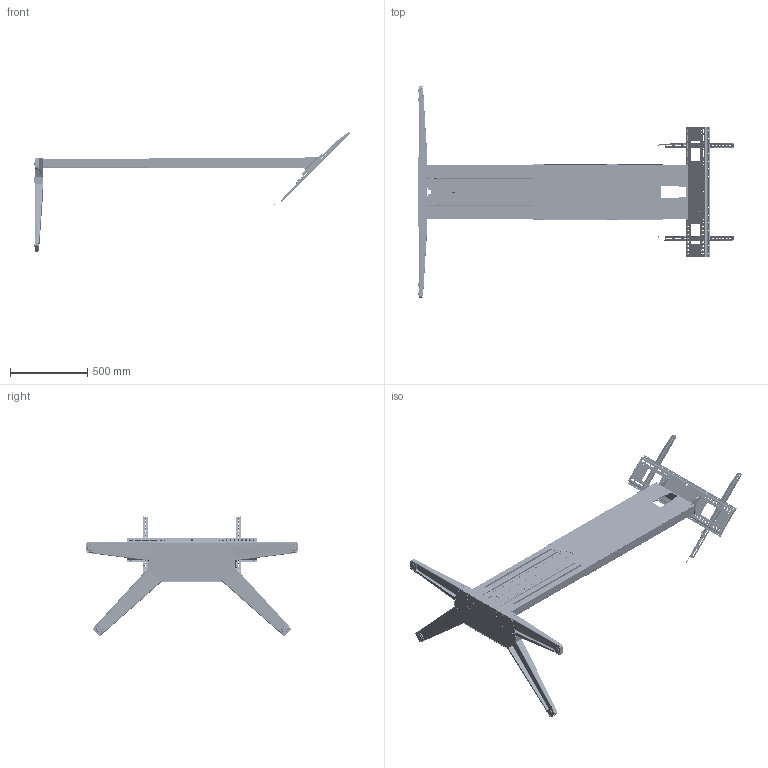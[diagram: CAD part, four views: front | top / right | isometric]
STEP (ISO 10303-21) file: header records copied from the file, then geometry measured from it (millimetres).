
FILE_DESCRIPTION((''),'2;1');
FILE_NAME('F51_FREESTANDING_MAX_ASM_ASM_AS_ASM','2022-02-11T14:44:40',('103247'),('捷昌驱动'),'CREO PARAMETRIC BY PTC INC, 2018100','CREO PARAMETRIC BY PTC INC, 2018100','');
FILE_SCHEMA(('CONFIG_CONTROL_DESIGN'));
Products named in the file (92): RR05-304_TOP_BRACKET_42_4_1_1; JCSP-0722_1_1_2_1_1_1; JS36DR-2331_AF0_1_1_1; JS36DR-2330_ASM_1_ASM_1_ASM_1_ASM; JS36DR-1576_1_1_1; JS36DR-2329_ASM_1_ASM_1_ASM_1_ASM; JS36DR-2329_ASM_ASM_1_ASM_1_ASM; RR05-251_LEG_TOP4_ASM_27_ASM_1__ASM; RR05-251_LEG_TOP5_ASM_12_ASM_1__ASM; ASM0001_ASM_2_ASM_1_ASM_1_ASM; RR05-201_FRONT_TOP_COVER_25_3_1; PRT0001; RR05-203_REAR_TOP_COVER_16_7_1_; NS1_3_6_ASM_1_ASM_1_1_2_3_ASM_2; NS1_3_6_ASM_1_1_ASM_1_ASM_1_A_1_ASM; 0000210278_ASM_1_ASM_1_ASM_1_1__ASM; 0000210276_ASM_1_ASM_1_ASM_1_1__ASM; JCB35NS1-A_ASM_1_ASM_1_1_ASM_1__ASM; JC35TS-1804_1_1_1_8_1_1_1; ______17135_1_1_1_1_1_1_1_1; ______17135_1_2_1_1_1_1_1_1; ______17135_1_3_1_1_1_1_1_1; ______17135_1_4_1_1_1_1_1_1; ______17135_1_5_1_1_1_1_1_1; ______17135_1_ASM_1_1_ASM_1_ASM_ASM; JC35TS-1807_1_ASM_1_1_ASM_1_ASM_ASM; JC35TS-1806_1_1_1_1_1_1_1; JC35TS-1805_1_1_1_1_1_1_1; JC35TF-0137_1_1_1_2_1_1_1; JCSP-0412_1_1_1_1_1_1_1; JCSP-0474_1_1_1_1_1_1_1; JC35TS-T191184_ASM_1_ASM_1_1_AS_ASM; JC35TS-T215007_ASM_1_ASM_1_1_AS_ASM; 2_ASM_1_1_ASM_1_ASM_1_ASM_1_ASM_ASM; RR05-300_MONITOR_CHASSIS_ASM_12_ASM; RR05-250_TOP_ASM_ASM_61_ASM_5_A_ASM; JC35TS-1668_1_1_5_1_1_1; RR05-256-2_BRACKET_SCREWS_8_1_1; RR05-205_REAR_BOTTOM_COVER_26_7; RR05-202-1_CONTROLLER_3_1_1_1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
Assembly tree (134 placements, depth 14):
  F51_FREESTANDING_MAX_ASM_ASM_AS_ASM
    F51_FREESTANDING_MAX_ASM_ASM__1_ASM
      F50_FREESTANDING_MAX_ASM_ASM_1__ASM
        F50_FREESTANDING_MAX_ASM_1_ASM__ASM
          RR05-150_MAIN_ASM_ASM_103_ASM_1_ASM
            RR05-250_TOP_ASM_ASM_61_ASM_5_A_ASM
              RR05-251_LEG_TOP5_ASM_12_ASM_1__ASM
                RR05-251_LEG_TOP4_ASM_27_ASM_1__ASM
                  RR05-304_TOP_BRACKET_42_4_1_1
                  JCSP-0722_1_1_2_1_1_1  x8
                  JS36DR-2329_ASM_ASM_1_ASM_1_ASM  x2
              ASM0001_ASM_2_ASM_1_ASM_1_ASM
              RR05-201_FRONT_TOP_COVER_25_3_1
              PRT0001
              RR05-203_REAR_TOP_COVER_16_7_1_
              RR05-300_MONITOR_CHASSIS_ASM_12_ASM
                2_ASM_1_1_ASM_1_ASM_1_ASM_1_ASM_ASM
                  JC35TS-T215007_ASM_1_ASM_1_1_AS_ASM
                    JC35TS-T191184_ASM_1_ASM_1_1_AS_ASM  x2
            RR05-252_LEG_BOT_ASM_65_ASM_3_A_ASM
              JC35TS-1668_1_1_5_1_1_1
              RR05-256-2_BRACKET_SCREWS_8_1_1  x6
              RR05-205_REAR_BOTTOM_COVER_26_7
              RR05-202_CONTROLLER_ASM_ASM_7_A_ASM
                RR05-202-1_CONTROLLER_3_1_1_1
                RR05-256-2_BRACKET_SCREWS_8_1_1  x2
              ASM0001_ASM_1_ASM_1_ASM
                JS36DR-2342_ASM_1_1_ASM_1_ASM_1_ASM
                  JS36DR-2340_ASM_1_1_ASM_1_ASM_1_ASM
                    JC35PJ-0476_1_1_1_1  x2
                  JC35TS-0166_1_1_1_1
              JS36DR-2339_ASM_ASM_1_ASM_1_ASM
                JS36DR-2339_ASM_1_ASM_1_ASM_1_ASM
                  JS36DR-2338_ASM_1_ASM_1_ASM_1_ASM
                    JC35PJ-0476_1_1_2_1_1  x2
                  JC35TS-0166_1_1_2_1_1
      __ASM_1_ASM
        000_ASM_1_ASM_1_ASM
          RR05-110_BASE_ASM_ASM_ASM_4_A_1_ASM
            RR05-110_BASE_ASM_ASM_252_ASM_1_ASM
              RR05-200_BASE_HUB_ASM_96_ASM__1_ASM
                RR05-200-1_BASE_HUB_BOT_ASM_6_1_ASM
                  RR05-200-1_BASE_HUB_BOT_112_2_2
                  RR05-200-1-M_BASE_HUB_MID_61__1
                RR05-200-2_BASE_HUB_TOP_ASM_4_1_ASM
                  RR05-200-2_BASE_HUB_TOP_93_1_1_
                  PSM-UNTHREADED-STANDOFF_14_1_1_  x8
              RR05-220_LEG_FRONT_LEFT_ASM_8_1_ASM
                RR05-220-1_LEG_FRONT_LEFT_BOT_A_ASM
                  RR05-220-1_LEG_FRONT_LEFT_BOT_3
                  PSM-P-CLS-M6-1_6_1_1_1  x3
                  JCSP-1755_1_1_9_1_1_1
                RR05-220-2_LEG_FRONT_LEFT_TOP_1
              RR05-230_LEG_BACK_LEFT_ASM_54_1_ASM
                RR05-230-1_LEG_BACK_LEFT_BOT_AS_ASM
                  PSM-P-CLS-M6-1_6_1_1_1  x3
                  JCSP-1755_1_1_9_1_1_1
                RR05-230-2_LEG-BACK_LEFT_TOP_88
                PRT0001_1_1_1
                FOOT-ADJUSTABLE-ASM_ASM_3_ASM_2_ASM
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Bounding box: 2051.96 x 1380.36 x 773.38 mm (x, y, z)
Volume: 6319523.1 mm3; surface area: 7065519.9 mm2
Topology: 99 solids, 180 shells, 5642 faces, 15625 edges, 10335 vertices
Faces by surface type: plane 2598, cylinder 2199, bspline 341, cone 264, torus 135, extrusion 99, sphere 6
Entity records: 173099 total; most frequent: CARTESIAN_POINT 66827, ORIENTED_EDGE 22018, DIRECTION 21245, EDGE_CURVE 11125, VERTEX_POINT 7342, AXIS2_PLACEMENT_3D 7165, VECTOR 6915, LINE 6818
